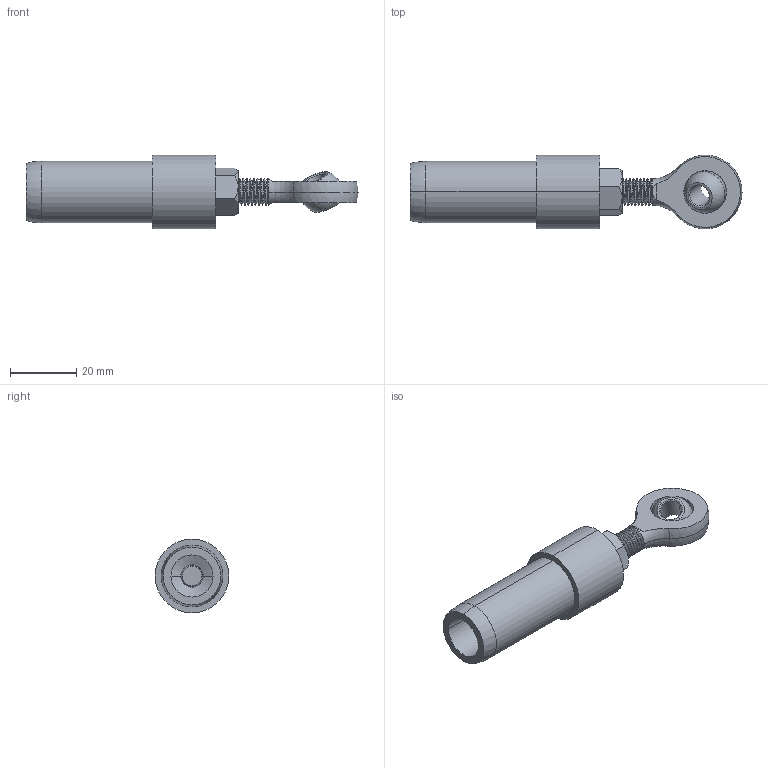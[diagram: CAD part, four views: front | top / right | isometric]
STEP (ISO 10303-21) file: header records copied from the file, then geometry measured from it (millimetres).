
FILE_DESCRIPTION (( 'STEP AP214' ), '1' );
FILE_NAME ('DRP-002-0558-02.STEP', '2013-12-20T17:41:44', ( 'ydmin' ), ( 'Microsoft' ), 'SwSTEP 2.0', 'SolidWorks 2013', '' );
FILE_SCHEMA (( 'AUTOMOTIVE_DESIGN' ));
Length unit declared in the file: inch
Products named in the file (1): DRP-002-0558-02
Bounding box: 100.01 x 22.23 x 22.23 mm (x, y, z)
Volume: 16673.6 mm3; surface area: 10857.2 mm2
Topology: 5 solids, 5 shells, 169 faces, 416 edges, 258 vertices
Faces by surface type: cylinder 91, cone 37, plane 21, bspline 11, torus 5, sphere 4
Entity records: 15817 total; most frequent: CARTESIAN_POINT 9939, ORIENTED_EDGE 828, DIRECTION 685, EDGE_CURVE 414, AXIS2_PLACEMENT_3D 267, VERTEX_POINT 258, EDGE_LOOP 180, LENGTH_MEASURE_WITH_UNIT 176
